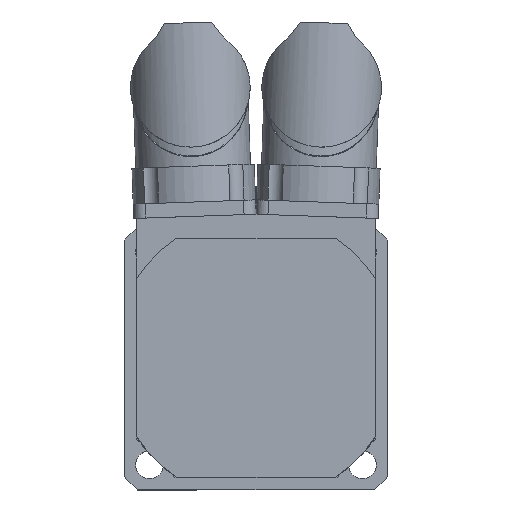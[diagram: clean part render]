
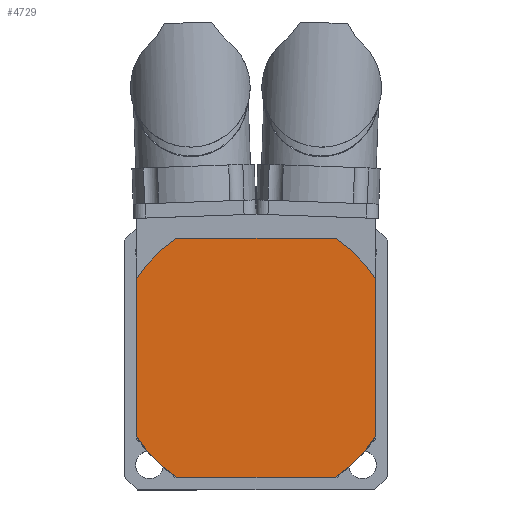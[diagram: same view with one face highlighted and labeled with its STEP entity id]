
A CAD part, top view. The second image highlights one B-rep face of the part: STEP entity #4729.
In plain terms, the highlighted planar face has unit normal (0, 0, 1).
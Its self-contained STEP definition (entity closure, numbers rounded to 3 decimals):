
#3524=CARTESIAN_POINT('',(-25.0,-16.583,4.5));
#3525=VERTEX_POINT('',#3524);
#3532=CARTESIAN_POINT('',(-25.,16.583,4.5));
#3533=VERTEX_POINT('',#3532);
#3534=CARTESIAN_POINT('',(-25.0,-16.583,4.5));
#3535=DIRECTION('',(0.0,1.0,0.0));
#3536=VECTOR('',#3535,33.166);
#3537=LINE('',#3534,#3536);
#3538=EDGE_CURVE('',#3525,#3533,#3537,.T.);
#3623=CARTESIAN_POINT('',(16.583,-25.0,4.5));
#3624=VERTEX_POINT('',#3623);
#3631=CARTESIAN_POINT('',(-16.583,-25.0,4.5));
#3632=VERTEX_POINT('',#3631);
#3633=CARTESIAN_POINT('',(16.583,-25.0,4.5));
#3634=DIRECTION('',(-1.0,0.0,0.0));
#3635=VECTOR('',#3634,33.166);
#3636=LINE('',#3633,#3635);
#3637=EDGE_CURVE('',#3624,#3632,#3636,.T.);
#4555=CARTESIAN_POINT('',(16.583,25.0,4.5));
#4556=VERTEX_POINT('',#4555);
#4557=CARTESIAN_POINT('',(25.0,16.583,4.5));
#4558=VERTEX_POINT('',#4557);
#4559=CARTESIAN_POINT('',(0.0,0.0,4.5));
#4560=DIRECTION('',(0.0,0.0,-1.0));
#4561=DIRECTION('',(-0.833,-0.553,0.0));
#4562=AXIS2_PLACEMENT_3D('',#4559,#4560,#4561);
#4563=CIRCLE('',#4562,30.0);
#4564=EDGE_CURVE('',#4556,#4558,#4563,.T.);
#4593=CARTESIAN_POINT('',(25.,-16.583,4.5));
#4594=VERTEX_POINT('',#4593);
#4595=CARTESIAN_POINT('',(25.0,16.583,4.5));
#4596=DIRECTION('',(0.0,-1.0,0.0));
#4597=VECTOR('',#4596,33.166);
#4598=LINE('',#4595,#4597);
#4599=EDGE_CURVE('',#4558,#4594,#4598,.T.);
#4631=CARTESIAN_POINT('',(0.0,0.0,4.5));
#4632=DIRECTION('',(0.0,0.0,-1.0));
#4633=DIRECTION('',(-0.553,0.833,0.0));
#4634=AXIS2_PLACEMENT_3D('',#4631,#4632,#4633);
#4635=CIRCLE('',#4634,30.0);
#4636=EDGE_CURVE('',#4594,#3624,#4635,.T.);
#4651=CARTESIAN_POINT('',(0.0,0.0,4.5));
#4652=DIRECTION('',(0.0,0.0,-1.0));
#4653=DIRECTION('',(0.833,0.553,0.0));
#4654=AXIS2_PLACEMENT_3D('',#4651,#4652,#4653);
#4655=CIRCLE('',#4654,30.0);
#4656=EDGE_CURVE('',#3632,#3525,#4655,.T.);
#4677=CARTESIAN_POINT('',(-16.583,25.0,4.5));
#4678=VERTEX_POINT('',#4677);
#4679=CARTESIAN_POINT('',(0.0,0.0,4.5));
#4680=DIRECTION('',(0.0,0.0,-1.0));
#4681=DIRECTION('',(0.553,-0.833,0.0));
#4682=AXIS2_PLACEMENT_3D('',#4679,#4680,#4681);
#4683=CIRCLE('',#4682,30.);
#4684=EDGE_CURVE('',#3533,#4678,#4683,.T.);
#4702=CARTESIAN_POINT('',(-16.583,25.0,4.5));
#4703=DIRECTION('',(1.0,0.0,0.0));
#4704=VECTOR('',#4703,33.166);
#4705=LINE('',#4702,#4704);
#4706=EDGE_CURVE('',#4678,#4556,#4705,.T.);
#4714=CARTESIAN_POINT('',(-27.5,-27.5,4.5));
#4715=DIRECTION('',(0.0,0.0,1.0));
#4716=DIRECTION('',(1.0,0.0,0.0));
#4717=AXIS2_PLACEMENT_3D('',#4714,#4715,#4716);
#4718=PLANE('',#4717);
#4719=ORIENTED_EDGE('',*,*,#4564,.F.);
#4720=ORIENTED_EDGE('',*,*,#4706,.F.);
#4721=ORIENTED_EDGE('',*,*,#4684,.F.);
#4722=ORIENTED_EDGE('',*,*,#3538,.F.);
#4723=ORIENTED_EDGE('',*,*,#4656,.F.);
#4724=ORIENTED_EDGE('',*,*,#3637,.F.);
#4725=ORIENTED_EDGE('',*,*,#4636,.F.);
#4726=ORIENTED_EDGE('',*,*,#4599,.F.);
#4727=EDGE_LOOP('',(#4719,#4720,#4721,#4722,#4723,#4724,#4725,#4726));
#4728=FACE_OUTER_BOUND('',#4727,.T.);
#4729=ADVANCED_FACE('',(#4728),#4718,.T.);
